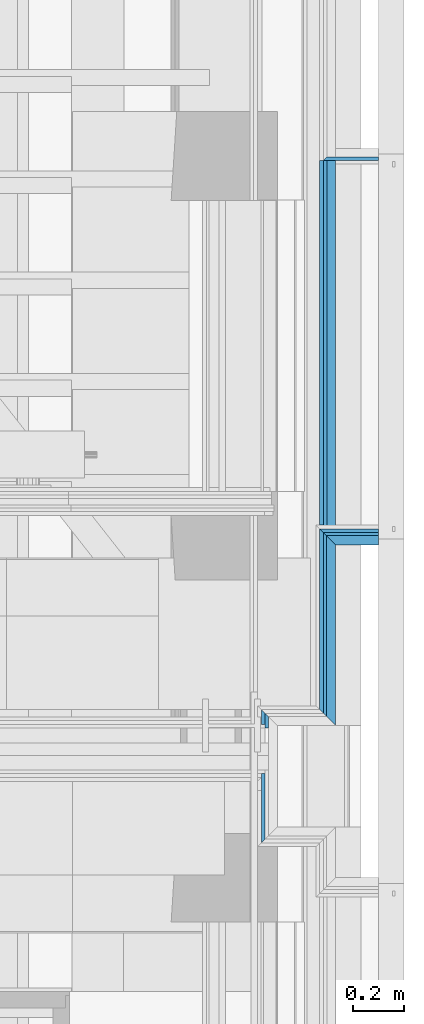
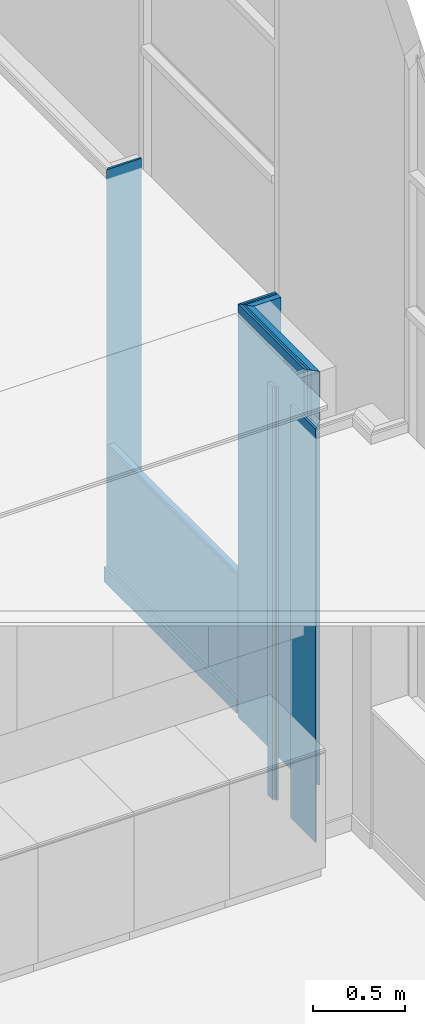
# One storey, part 61 of 183: 13 building element parts, 5 elements without a shape of their own.
"""IFC2X3 building model written with IfcOpenShell, lengths in metres."""

from ifc_helpers import new_model, entity, si_unit, converted_unit, derived_unit, money_unit, direction, frame, frame_2d, origin_with_axes, place, context, subcontext, project, spatial, polyline, rectangle, outline, extrude, material, type_object, element, aggregate, save


model = new_model("IFC2X3")

# Units and contexts
model_context = context("Model", 3, precision=1e-05, world=origin_with_axes(), true_north=direction((0.0, 1.0)))
body_context = subcontext(model_context, "Body", "Model", "MODEL_VIEW", scale=1.0)
ifc_project = project(units=[si_unit("LENGTHUNIT", "METRE"), si_unit("AREAUNIT", "SQUARE_METRE"), si_unit("VOLUMEUNIT", "CUBIC_METRE"), si_unit("ABSORBEDDOSEUNIT", "GRAY"), si_unit("AMOUNTOFSUBSTANCEUNIT", "MOLE"), si_unit("DOSEEQUIVALENTUNIT", "SIEVERT"), si_unit("ELECTRICCAPACITANCEUNIT", "FARAD"), si_unit("ELECTRICCHARGEUNIT", "COULOMB"), si_unit("ELECTRICCONDUCTANCEUNIT", "SIEMENS"), si_unit("ELECTRICCURRENTUNIT", "AMPERE"), si_unit("ELECTRICRESISTANCEUNIT", "OHM"), si_unit("ELECTRICVOLTAGEUNIT", "VOLT"), si_unit("ENERGYUNIT", "JOULE"), si_unit("FORCEUNIT", "NEWTON"), si_unit("FREQUENCYUNIT", "HERTZ"), si_unit("ILLUMINANCEUNIT", "LUX"), si_unit("INDUCTANCEUNIT", "HENRY"), si_unit("LUMINOUSFLUXUNIT", "LUMEN"), si_unit("LUMINOUSINTENSITYUNIT", "CANDELA"), si_unit("MAGNETICFLUXDENSITYUNIT", "TESLA"), si_unit("MAGNETICFLUXUNIT", "WEBER"), si_unit("MASSUNIT", "GRAM"), converted_unit("PLANEANGLEUNIT", "degree", entity("IfcReal", 0.0174532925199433), si_unit("PLANEANGLEUNIT", "RADIAN"), dimensions=[0, 0, 0, 0, 0, 0, 0]), si_unit("POWERUNIT", "WATT"), si_unit("PRESSUREUNIT", "PASCAL"), si_unit("RADIOACTIVITYUNIT", "BECQUEREL"), si_unit("SOLIDANGLEUNIT", "STERADIAN"), si_unit("THERMODYNAMICTEMPERATUREUNIT", "KELVIN"), si_unit("TIMEUNIT", "SECOND"), derived_unit("ACCELERATIONUNIT", [(si_unit("LENGTHUNIT", "METRE"), 1), (si_unit("TIMEUNIT", "SECOND"), -2)]), derived_unit("ANGULARVELOCITYUNIT", [(converted_unit("PLANEANGLEUNIT", "degree", entity("IfcReal", 0.0174532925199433), si_unit("PLANEANGLEUNIT", "RADIAN"), dimensions=[0, 0, 0, 0, 0, 0, 0]), 1), (si_unit("TIMEUNIT", "SECOND"), -1)]), derived_unit("CURVATUREUNIT", [(converted_unit("PLANEANGLEUNIT", "degree", entity("IfcReal", 0.0174532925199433), si_unit("PLANEANGLEUNIT", "RADIAN"), dimensions=[0, 0, 0, 0, 0, 0, 0]), 1), (si_unit("LENGTHUNIT", "METRE"), -1)]), derived_unit("DYNAMICVISCOSITYUNIT", [(si_unit("PRESSUREUNIT", "PASCAL"), 1), (si_unit("TIMEUNIT", "SECOND"), 1)]), derived_unit("HEATFLUXDENSITYUNIT", [(si_unit("POWERUNIT", "WATT"), 1), (si_unit("LENGTHUNIT", "METRE"), -2)]), derived_unit("HEATINGVALUEUNIT", [(si_unit("ENERGYUNIT", "JOULE"), 1), (si_unit("MASSUNIT", "GRAM"), -1)]), derived_unit("INTEGERCOUNTRATEUNIT", [(si_unit("TIMEUNIT", "SECOND"), -1)]), derived_unit("IONCONCENTRATIONUNIT", [(si_unit("MASSUNIT", "GRAM"), 1), (si_unit("VOLUMEUNIT", "CUBIC_METRE"), -1)]), derived_unit("ISOTHERMALMOISTURECAPACITYUNIT", [(si_unit("VOLUMEUNIT", "CUBIC_METRE"), 1), (si_unit("MASSUNIT", "GRAM"), -1)]), derived_unit("KINEMATICVISCOSITYUNIT", [(si_unit("AREAUNIT", "SQUARE_METRE"), 1), (si_unit("TIMEUNIT", "SECOND"), -1)]), derived_unit("LINEARFORCEUNIT", [(si_unit("FORCEUNIT", "NEWTON"), 1), (si_unit("LENGTHUNIT", "METRE"), -1)]), derived_unit("LINEARMOMENTUNIT", [(si_unit("FORCEUNIT", "NEWTON"), 1), (si_unit("LENGTHUNIT", "METRE"), -1)]), derived_unit("LINEARSTIFFNESSUNIT", [(si_unit("FORCEUNIT", "NEWTON"), 1), (si_unit("LENGTHUNIT", "METRE"), -1)]), derived_unit("LINEARVELOCITYUNIT", [(si_unit("LENGTHUNIT", "METRE"), 1), (si_unit("TIMEUNIT", "SECOND"), -1)]), derived_unit("LUMINOUSINTENSITYDISTRIBUTIONUNIT", [(si_unit("LUMINOUSINTENSITYUNIT", "CANDELA"), 1), (si_unit("LUMINOUSFLUXUNIT", "LUMEN"), -1)]), derived_unit("MASSDENSITYUNIT", [(si_unit("MASSUNIT", "GRAM"), 1), (si_unit("VOLUMEUNIT", "CUBIC_METRE"), -1)]), derived_unit("MASSFLOWRATEUNIT", [(si_unit("MASSUNIT", "GRAM"), 1), (si_unit("TIMEUNIT", "SECOND"), -1)]), derived_unit("MASSPERLENGTHUNIT", [(si_unit("MASSUNIT", "GRAM"), 1), (si_unit("LENGTHUNIT", "METRE"), -1)]), derived_unit("MODULUSOFELASTICITYUNIT", [(si_unit("FORCEUNIT", "NEWTON"), 1), (si_unit("AREAUNIT", "SQUARE_METRE"), -1)]), derived_unit("MODULUSOFLINEARSUBGRADEREACTIONUNIT", [(si_unit("FORCEUNIT", "NEWTON"), 1), (si_unit("LENGTHUNIT", "METRE"), -2)]), derived_unit("MODULUSOFROTATIONALSUBGRADEREACTIONUNIT", [(si_unit("FORCEUNIT", "NEWTON"), 1), (si_unit("LENGTHUNIT", "METRE"), 1)]), derived_unit("MODULUSOFSUBGRADEREACTIONUNIT", [(si_unit("FORCEUNIT", "NEWTON"), 1), (si_unit("VOLUMEUNIT", "CUBIC_METRE"), -1)]), derived_unit("MOISTUREDIFFUSIVITYUNIT", [(si_unit("VOLUMEUNIT", "CUBIC_METRE"), 1), (si_unit("TIMEUNIT", "SECOND"), -1)]), derived_unit("MOLECULARWEIGHTUNIT", [(si_unit("MASSUNIT", "GRAM"), 1), (si_unit("AMOUNTOFSUBSTANCEUNIT", "MOLE"), -1)]), derived_unit("PLANARFORCEUNIT", [(si_unit("FORCEUNIT", "NEWTON"), 1), (si_unit("LENGTHUNIT", "METRE"), -2)]), derived_unit("ROTATIONALFREQUENCYUNIT", [(si_unit("TIMEUNIT", "SECOND"), -1)]), derived_unit("ROTATIONALMASSUNIT", [(si_unit("MASSUNIT", "GRAM"), 1), (si_unit("LENGTHUNIT", "METRE"), 2)]), derived_unit("ROTATIONALSTIFFNESSUNIT", [(si_unit("FORCEUNIT", "NEWTON"), 1), (si_unit("LENGTHUNIT", "METRE"), 1), (converted_unit("PLANEANGLEUNIT", "degree", entity("IfcReal", 0.0174532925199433), si_unit("PLANEANGLEUNIT", "RADIAN"), dimensions=[0, 0, 0, 0, 0, 0, 0]), -1)]), derived_unit("SECTIONAREAINTEGRALUNIT", [(si_unit("LENGTHUNIT", "METRE"), 5)]), derived_unit("SECTIONMODULUSUNIT", [(si_unit("LENGTHUNIT", "METRE"), 3)]), derived_unit("SHEARMODULUSUNIT", [(si_unit("FORCEUNIT", "NEWTON"), 1), (si_unit("AREAUNIT", "SQUARE_METRE"), -1)]), derived_unit("SOUNDPOWERUNIT", [(si_unit("ENERGYUNIT", "JOULE"), 1), (si_unit("TIMEUNIT", "SECOND"), -1)]), derived_unit("SPECIFICHEATCAPACITYUNIT", [(si_unit("FORCEUNIT", "NEWTON"), 1), (si_unit("MASSUNIT", "GRAM"), -1), (si_unit("THERMODYNAMICTEMPERATUREUNIT", "KELVIN"), -1)]), derived_unit("TEMPERATUREGRADIENTUNIT", [(si_unit("THERMODYNAMICTEMPERATUREUNIT", "KELVIN"), 1), (si_unit("LENGTHUNIT", "METRE"), -1)]), derived_unit("THERMALADMITTANCEUNIT", [(si_unit("POWERUNIT", "WATT"), 1), (si_unit("AREAUNIT", "SQUARE_METRE"), -1), (si_unit("THERMODYNAMICTEMPERATUREUNIT", "KELVIN"), -1)]), derived_unit("THERMALCONDUCTANCEUNIT", [(si_unit("POWERUNIT", "WATT"), 1), (si_unit("LENGTHUNIT", "METRE"), -1), (si_unit("THERMODYNAMICTEMPERATUREUNIT", "KELVIN"), -1)]), derived_unit("THERMALEXPANSIONCOEFFICIENTUNIT", [(si_unit("THERMODYNAMICTEMPERATUREUNIT", "KELVIN"), -1)]), derived_unit("THERMALRESISTANCEUNIT", [(si_unit("AREAUNIT", "SQUARE_METRE"), 1), (si_unit("POWERUNIT", "WATT"), -1)]), derived_unit("THERMALTRANSMITTANCEUNIT", [(si_unit("POWERUNIT", "WATT"), 1), (si_unit("AREAUNIT", "SQUARE_METRE"), -1), (si_unit("THERMODYNAMICTEMPERATUREUNIT", "KELVIN"), -1)]), derived_unit("TORQUEUNIT", [(si_unit("FORCEUNIT", "NEWTON"), 1), (si_unit("LENGTHUNIT", "METRE"), 1)]), derived_unit("VAPORPERMEABILITYUNIT", [(si_unit("MASSUNIT", "GRAM"), 1), (si_unit("TIMEUNIT", "SECOND"), -1)]), derived_unit("VOLUMETRICFLOWRATEUNIT", [(si_unit("VOLUMEUNIT", "CUBIC_METRE"), 1), (si_unit("TIMEUNIT", "SECOND"), -1)]), derived_unit("WARPINGCONSTANTUNIT", [(si_unit("LENGTHUNIT", "METRE"), 6)]), derived_unit("WARPINGMOMENTUNIT", [(si_unit("FORCEUNIT", "NEWTON"), 1), (si_unit("LENGTHUNIT", "METRE"), 2)]), money_unit("GBP")], contexts=[model_context])

# Site, building, storey
site_placement = place(None, origin_with_axes())
site = spatial("IfcSite", under=ifc_project, at=site_placement, Name="Site", CompositionType="ELEMENT")
building_placement = place(site_placement, origin_with_axes())
building = spatial("IfcBuilding", under=site, at=building_placement, Name="Building01", CompositionType="ELEMENT")
storey_placement = place(building_placement, frame((0.0, 0.0, 5.15), z_axis=(0.0, 0.0, 1.0), x_axis=(1.0, 0.0, 0.0)))
storey = spatial("IfcBuildingStorey", under=building, at=storey_placement, Name="1F", CompositionType="ELEMENT", Elevation=5.15)

# Wall, building element parts
wall_type_1 = type_object("IfcWallType", Name="SHE_A-Walls_Type06f_ExternalWallInsulation_48+15mm", PredefinedType="NOTDEFINED")
wall_1_placement = place(storey_placement, frame((26.692, 8.818, 0.0), z_axis=(0.0, 0.0, 1.0), x_axis=(0.0, 1.0, 0.0)))
wall_1 = element("IfcWall", 1, at=wall_1_placement, inside=storey, type_object=wall_type_1, Name="6F", ObjectType="SHE_A-Walls_Type06f_ExternalWallInsulation_48+15mm")
ifc_material_1 = material(Name="A_BSUK_Insulation")
placement_1 = place(wall_1_placement, origin_with_axes())
building_element_part_1 = element("IfcBuildingElementPart", 2, at=placement_1, material=ifc_material_1, Name="1", context=body_context, shape_type="SweptSolid", body=[
    extrude(outline(polyline([(0.73218, 0.018), (0.018, 0.018), (-0.018, -0.018), (0.69618, -0.018), (0.73218, 0.018)])), origin_with_axes(), (0.0, 0.0, 1.0), 2.74),
])
ifc_material_2 = material(Name="A_BSUK_WallInternal_Finishes_Plasterboard")
building_element_part_2 = element("IfcBuildingElementPart", 3, at=placement_1, material=ifc_material_2, Name="2", context=body_context, shape_type="SweptSolid", body=[
    extrude(outline(polyline([(0.74418, 0.03), (0.03, 0.03), (0.018, 0.018), (0.73218, 0.018), (0.74418, 0.03)])), origin_with_axes(), (0.0, 0.0, 1.0), 2.74),
])
building_element_part_3 = element("IfcBuildingElementPart", 4, at=placement_1, material=ifc_material_2, Name="3", context=body_context, shape_type="SweptSolid", body=[
    extrude(outline(polyline([(0.75918, 0.045), (0.045, 0.045), (0.03, 0.03), (0.74418, 0.03), (0.75918, 0.045)])), origin_with_axes(), (0.0, 0.0, 1.0), 2.74),
])
aggregate(wall_1, [building_element_part_1, building_element_part_2, building_element_part_3])

wall_2_placement = place(storey_placement, frame((26.692, 9.53218, 0.0), z_axis=(0.0, 0.0, 1.0), x_axis=(1.0, 0.0, 0.0)))
wall_2 = element("IfcWall", 5, at=wall_2_placement, inside=storey, type_object=wall_type_1, Name="6F", ObjectType="SHE_A-Walls_Type06f_ExternalWallInsulation_48+15mm")
placement_2 = place(wall_2_placement, origin_with_axes())
building_element_part_4 = element("IfcBuildingElementPart", 6, at=placement_2, material=ifc_material_1, Name="1", context=body_context, shape_type="SweptSolid", body=[
    extrude(outline(polyline([(-0.018, 0.018), (0.018, -0.018), (0.188, -0.018), (0.188, 0.018), (-0.018, 0.018)])), origin_with_axes(), (0.0, 0.0, 1.0), 2.74),
])
building_element_part_5 = element("IfcBuildingElementPart", 7, at=placement_2, material=ifc_material_2, Name="2", context=body_context, shape_type="SweptSolid", body=[
    extrude(outline(polyline([(-0.03, 0.03), (-0.018, 0.018), (0.188, 0.018), (0.188, 0.03), (-0.03, 0.03)])), origin_with_axes(), (0.0, 0.0, 1.0), 2.74),
])
building_element_part_6 = element("IfcBuildingElementPart", 8, at=placement_2, material=ifc_material_2, Name="3", context=body_context, shape_type="SweptSolid", body=[
    extrude(outline(polyline([(-0.045, 0.045), (-0.03, 0.03), (0.188, 0.03), (0.188, 0.045), (-0.045, 0.045)])), origin_with_axes(), (0.0, 0.0, 1.0), 2.74),
])
aggregate(wall_2, [building_element_part_4, building_element_part_5, building_element_part_6])

wall_3_placement = place(storey_placement, frame((26.462, 8.382, 0.0), z_axis=(0.0, 0.0, 1.0), x_axis=(0.0, 1.0, 0.0)))
wall_3 = element("IfcWall", 9, at=wall_3_placement, inside=storey, type_object=wall_type_1, Name="6F", ObjectType="SHE_A-Walls_Type06f_ExternalWallInsulation_48+15mm")
placement_3 = place(wall_3_placement, origin_with_axes())
building_element_part_7 = element("IfcBuildingElementPart", 10, at=placement_3, material=ifc_material_2, Name="3", context=body_context, shape_type="SweptSolid", body=[
    extrude(outline(polyline([(0.466, 0.03), (0.408, 0.03), (0.408, 0.018), (0.454, 0.018), (0.466, 0.03)])), origin_with_axes(), (0.0, 0.0, 1.0), 2.74),
])
building_element_part_8 = element("IfcBuildingElementPart", 11, at=placement_3, material=ifc_material_2, Name="4", context=body_context, shape_type="SweptSolid", body=[
    extrude(outline(polyline([(0.228, 0.045), (-0.045, 0.045), (-0.03, 0.03), (0.228, 0.03), (0.228, 0.045)])), origin_with_axes(), (0.0, 0.0, 1.0), 2.74),
])
building_element_part_9 = element("IfcBuildingElementPart", 12, at=placement_3, material=ifc_material_2, Name="5", context=body_context, shape_type="SweptSolid", body=[
    extrude(outline(polyline([(0.481, 0.045), (0.423, 0.045), (0.423, 0.03), (0.466, 0.03), (0.481, 0.045)])), origin_with_axes(), (0.0, 0.0, 1.0), 2.74),
])
aggregate(wall_3, [building_element_part_7, building_element_part_8, building_element_part_9])

wall_type_2 = type_object("IfcWallType", Name="SHE_A-Walls_Type06d_ExternalWallInsulation_48mm", PredefinedType="NOTDEFINED")
wall_4_placement = place(storey_placement, frame((26.674, 11.03218, 0.0), z_axis=(0.0, 0.0, 1.0), x_axis=(0.0, -1.0, 0.0)))
wall_4 = element("IfcWall", 13, at=wall_4_placement, inside=storey, type_object=wall_type_2, Name="6D", ObjectType="SHE_A-Walls_Type06d_ExternalWallInsulation_48mm")
ifc_material_3 = material(Name="A_BSUK_Walls_Timber")
placement_4 = place(wall_4_placement, origin_with_axes())
building_element_part_10 = element("IfcBuildingElementPart", 14, at=placement_4, material=ifc_material_3, Name="1", context=body_context, shape_type="SweptSolid", body=[
    extrude(rectangle(XDim=1.44, YDim=0.015, at=frame_2d((0.72, -0.0195), x_axis=(-1.0, 0.0))), frame((0.0, 0.0, 0.015), z_axis=(0.0, 0.0, 1.0), x_axis=(1.0, 0.0, 0.0)), (0.0, 0.0, 1.0), 0.1),
])
building_element_part_11 = element("IfcBuildingElementPart", 15, at=placement_4, material=ifc_material_2, Name="2", context=body_context, shape_type="SweptSolid", body=[
    extrude(rectangle(XDim=1.455, YDim=0.013, at=frame_2d((0.7275, -0.0055), x_axis=(-1.0, 0.0))), origin_with_axes(), (0.0, 0.0, 1.0), 0.915),
])
building_element_part_12 = element("IfcBuildingElementPart", 16, at=placement_4, material=ifc_material_1, Name="3", context=body_context, shape_type="SweptSolid", body=[
    extrude(rectangle(XDim=1.455, YDim=0.036, at=frame_2d((0.7275, 0.018), x_axis=(-1.0, 0.0))), origin_with_axes(), (0.0, 0.0, 1.0), 0.915),
])
aggregate(wall_4, [building_element_part_10, building_element_part_11, building_element_part_12])

# Wall, building element part
wall_5_placement = place(storey_placement, frame((26.71, 11.08018, 0.0), z_axis=(0.0, 0.0, 1.0), x_axis=(1.0, 0.0, 0.0)))
wall_5 = element("IfcWall", 17, at=wall_5_placement, inside=storey, type_object=wall_type_2, Name="6D", ObjectType="SHE_A-Walls_Type06d_ExternalWallInsulation_48mm")
building_element_part_13_placement = place(wall_5_placement, origin_with_axes())
building_element_part_13 = element("IfcBuildingElementPart", 18, at=building_element_part_13_placement, material=ifc_material_2, Name="2", context=body_context, shape_type="SweptSolid", body=[
    extrude(outline(polyline([(-0.035, -0.035), (-0.048, -0.048), (0.17, -0.048), (0.17, -0.035), (-0.035, -0.035)])), origin_with_axes(), (0.0, 0.0, 1.0), 2.74),
])
aggregate(wall_5, [building_element_part_13])

save(model, "model.ifc")
